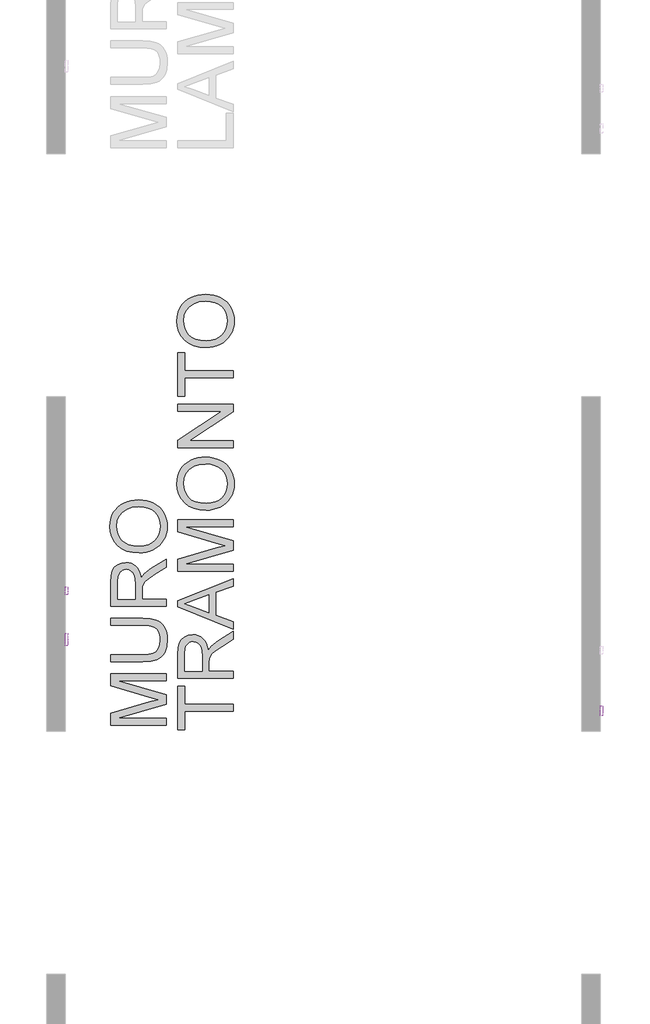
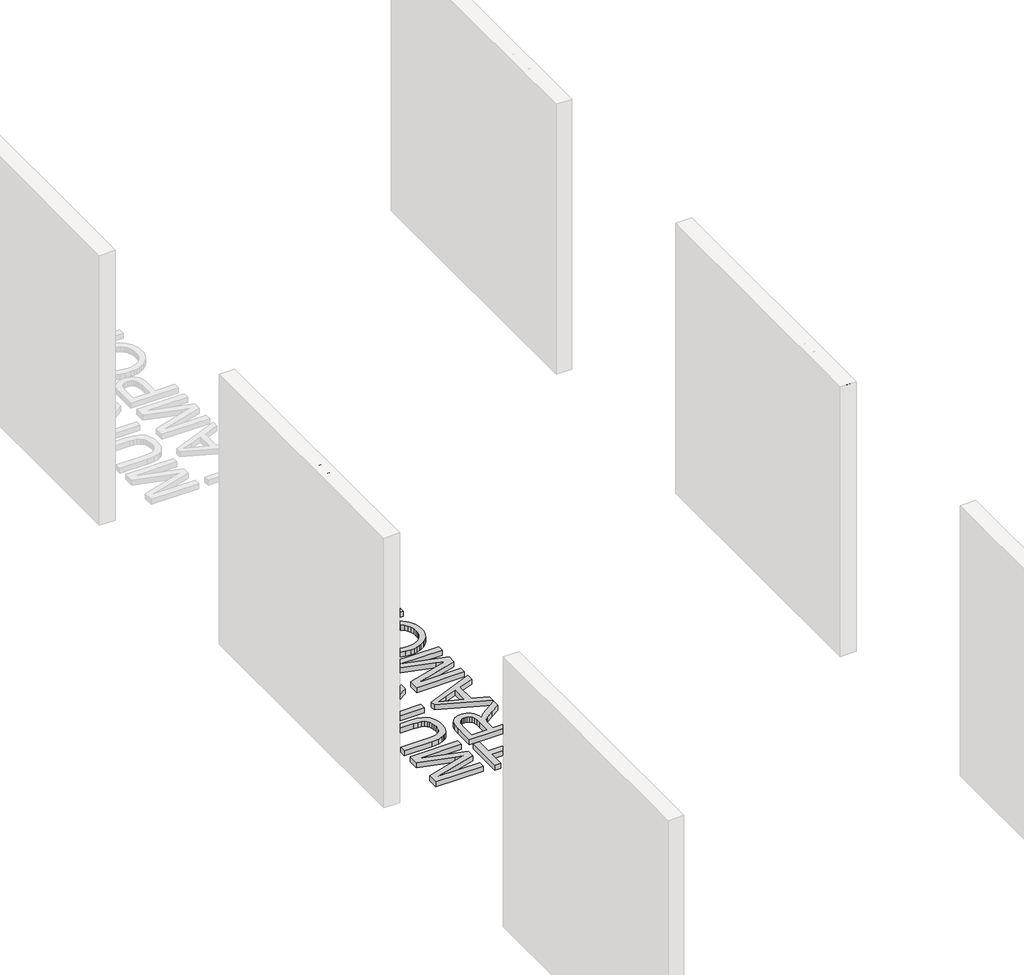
# One storey, part 5 of 11: 4 proxies.
"""IFC4 building model written with IfcOpenShell, lengths in millimetres."""

from ifc_helpers import new_model, si_unit, frame, origin, origin_with_axes, place, context, project, spatial, polyline, outline, extrude, element, save

model = new_model("IFC4")

# Units and contexts
model_context = context("Model", 3, world=origin())
ifc_project = project(units=[si_unit("LENGTHUNIT", "METRE", prefix="MILLI")], contexts=[model_context])

# Site, building, storey
site = spatial("IfcSite", under=ifc_project)
building = spatial("IfcBuilding", under=site)
storey = spatial("IfcBuildingStorey", under=building, Name="PORTOBELLO - SHOWROOM", Elevation=0.0)

# Proxies
placement = place(None, origin())
element("IfcBuildingElementProxy", 1, Name="10mm Arial", ObjectType="10mm Arial", at=placement, inside=storey, context=model_context, shape_type="SweptSolid", body=[
    extrude(outline(polyline([(-4684.2586502, 2568.7450757), (-4684.2586502, 2669.2013858), (-4662.6517143, 2669.2013858), (-4642.0993735, 2598.3963645), (-4637.9545697, 2583.6075083), (-4633.4664094, 2599.6226378), (-4613.2574251, 2669.2013858), (-4591.6504893, 2669.2013858), (-4591.6504893, 2568.7450757), (-4604.207528, 2568.7450757), (-4604.207528, 2656.6443471), (-4629.4442329, 2568.7450757), (-4646.4649065, 2568.7450757), (-4671.7016114, 2656.6443471), (-4671.7016114, 2568.7450757), (-4684.2586502, 2568.7450757)])), frame((-30379.0012486, 0.0, 0.0), z_axis=(1.0, 0.0, 0.0), x_axis=(0.0, 1.0, 0.0)), (0.0, 0.0, 1.0), 20.0),
    extrude(outline(polyline([(-4524.1564059, 2568.7450757), (-4524.1564059, 2581.4247418), (-4533.9911179, 2570.7377698), (-4546.8179368, 2567.1754458), (-4558.6269488, 2569.6770434), (-4566.7694037, 2575.9555628), (-4570.5095373, 2585.2016636), (-4571.2453013, 2596.8757856), (-4571.2453013, 2642.5176784), (-4558.6882625, 2642.5176784), (-4558.6882625, 2602.786423), (-4557.927973, 2589.9841295), (-4552.9615661, 2582.4670741), (-4543.6051007, 2579.7324846), (-4533.1204638, 2582.5283878), (-4526.1920196, 2590.1435451), (-4524.1564059, 2604.1353236), (-4524.1564059, 2642.5176784), (-4511.5993671, 2642.5176784), (-4511.5993671, 2568.7450757), (-4524.1564059, 2568.7450757)])), frame((-30379.0012486, 0.0, 0.0), z_axis=(1.0, 0.0, 0.0), x_axis=(0.0, 1.0, 0.0)), (0.0, 0.0, 1.0), 20.0),
    extrude(outline(polyline([(-4494.3334388, 2568.7450757), (-4494.3334388, 2642.5176784), (-4483.3460299, 2642.5176784), (-4483.3460299, 2631.6038459), (-4475.5469316, 2641.6592871), (-4467.6987824, 2644.0873083), (-4455.0926927, 2640.2122846), (-4459.2865474, 2628.9550956), (-4468.1157153, 2631.5302695), (-4475.2158378, 2629.0531974), (-4479.7407863, 2622.1860668), (-4481.7764, 2607.519838), (-4481.7764, 2568.7450757), (-4494.3334388, 2568.7450757)])), frame((-30379.0012486, 0.0, 0.0), z_axis=(1.0, 0.0, 0.0), x_axis=(0.0, 1.0, 0.0)), (0.0, 0.0, 1.0), 20.0),
    extrude(outline(polyline([(-4450.3838031, 2605.6313771), (-4447.6676077, 2623.4184715), (-4439.5190215, 2635.920328), (-4429.4513176, 2642.0455632), (-4417.3970509, 2644.0873083), (-4404.2054157, 2641.6010391), (-4393.6686622, 2634.1422317), (-4386.7616777, 2622.2994971), (-4384.4593496, 2606.6614466), (-4388.530577, 2584.3187468), (-4400.38864, 2571.6758689), (-4417.3970509, 2567.1754458), (-4430.7481016, 2569.6525179), (-4441.2725924, 2577.0837342), (-4448.1060004, 2589.1747891), (-4450.3838031, 2605.6313771)]), holes=[polyline([(-4437.8267643, 2605.6559025), (-4436.3736305, 2594.2914146), (-4432.0142288, 2586.194945), (-4425.4536666, 2581.3480997), (-4417.3970509, 2579.7324846), (-4409.3772234, 2581.3572967), (-4402.8289239, 2586.2317332), (-4398.4695222, 2594.4355017), (-4397.0163883, 2606.04831), (-4398.4787193, 2617.0817042), (-4402.8657121, 2625.0678091), (-4409.4232086, 2629.9146544), (-4417.3970509, 2631.5302695), (-4425.4536666, 2629.9207858), (-4432.0142288, 2625.0923346), (-4436.3736305, 2617.0142591), (-4437.8267643, 2605.6559025)])]), frame((-30379.0012486, 0.0, 0.0), z_axis=(1.0, 0.0, 0.0), x_axis=(0.0, 1.0, 0.0)), (0.0, 0.0, 1.0), 20.0),
    extrude(outline(polyline([(-4304.4082274, 2568.7450757), (-4304.4082274, 2656.6443471), (-4337.3704542, 2656.6443471), (-4337.3704542, 2669.2013858), (-4258.8889619, 2669.2013858), (-4258.8889619, 2656.6443471), (-4291.8511887, 2656.6443471), (-4291.8511887, 2568.7450757), (-4304.4082274, 2568.7450757)])), frame((-30379.0012486, 0.0, 0.0), z_axis=(1.0, 0.0, 0.0), x_axis=(0.0, 1.0, 0.0)), (0.0, 0.0, 1.0), 20.0),
    extrude(outline(polyline([(-4246.3319231, 2568.7450757), (-4246.3319231, 2642.5176784), (-4235.3445142, 2642.5176784), (-4235.3445142, 2631.6038459), (-4227.5454159, 2641.6592871), (-4219.6972667, 2644.0873083), (-4207.091177, 2640.2122846), (-4211.2850317, 2628.9550956), (-4220.1141996, 2631.5302695), (-4227.2143221, 2629.0531974), (-4231.7392706, 2622.1860668), (-4233.7748844, 2607.519838), (-4233.7748844, 2568.7450757), (-4246.3319231, 2568.7450757)])), frame((-30379.0012486, 0.0, 0.0), z_axis=(1.0, 0.0, 0.0), x_axis=(0.0, 1.0, 0.0)), (0.0, 0.0, 1.0), 20.0),
    extrude(outline(polyline([(-4152.1541324, 2578.1628548), (-4164.3310264, 2569.6525179), (-4177.7832447, 2567.1754458), (-4188.2770786, 2568.6653679), (-4196.0179289, 2573.1351342), (-4200.7911978, 2579.922557), (-4202.3822874, 2588.3654488), (-4199.9787917, 2598.2982626), (-4193.6634841, 2605.5087497), (-4184.8711045, 2609.6290281), (-4174.0063229, 2611.517489), (-4152.2277088, 2615.8339711), (-4152.1541324, 2618.6298742), (-4155.6122231, 2627.9005005), (-4169.4936371, 2631.5302695), (-4182.1978286, 2629.1145111), (-4188.2556188, 2620.5428606), (-4200.8126576, 2622.1124904), (-4195.3802668, 2634.3752236), (-4184.4419088, 2641.5611853), (-4167.8749563, 2644.0873083), (-4152.6569044, 2641.8554908), (-4144.0607285, 2636.2514218), (-4140.2102302, 2627.7288222), (-4139.5970936, 2616.7414133), (-4139.5970936, 2601.1186913), (-4138.9594315, 2579.3032889), (-4136.4578339, 2568.7450757), (-4149.0148727, 2568.7450757), (-4152.1541324, 2578.1628548)]), holes=[polyline([(-4152.1541324, 2603.2769323), (-4172.4121676, 2599.4264341), (-4183.2156355, 2597.3908204), (-4188.108466, 2594.0798824), (-4189.8252487, 2589.2483655), (-4186.085115, 2582.4548114), (-4175.1099689, 2579.7324846), (-4162.4057773, 2582.7368542), (-4154.2142715, 2590.008655), (-4152.2277088, 2599.7207397), (-4152.1541324, 2603.2769323)])]), frame((-30379.0012486, 0.0, 0.0), z_axis=(1.0, 0.0, 0.0), x_axis=(0.0, 1.0, 0.0)), (0.0, 0.0, 1.0), 20.0),
    extrude(outline(polyline([(-4122.3311653, 2568.7450757), (-4122.3311653, 2642.5176784), (-4109.7741265, 2642.5176784), (-4109.7741265, 2630.3775726), (-4101.1411624, 2640.3226492), (-4088.8539037, 2644.0873083), (-4076.2723395, 2640.2490728), (-4069.356158, 2629.4946558), (-4059.5582342, 2640.4391452), (-4047.1851364, 2644.0873083), (-4037.7458975, 2642.5697951), (-4030.7653367, 2638.0172554), (-4026.4519203, 2630.3070619), (-4025.0141148, 2619.3165873), (-4025.0141148, 2568.7450757), (-4037.5711536, 2568.7450757), (-4037.5711536, 2613.9209847), (-4038.7361132, 2624.4056215), (-4042.9544935, 2629.5682322), (-4050.1281924, 2631.5302695), (-4062.4767647, 2626.5025489), (-4066.1647817, 2619.9603808), (-4067.3941207, 2610.3893175), (-4067.3941207, 2568.7450757), (-4079.9511594, 2568.7450757), (-4079.9511594, 2615.3189363), (-4082.8574272, 2627.4835676), (-4092.3855709, 2631.5302695), (-4101.6807226, 2628.8324682), (-4107.8611401, 2620.9352681), (-4109.7741265, 2605.9502081), (-4109.7741265, 2568.7450757), (-4122.3311653, 2568.7450757)])), frame((-30379.0012486, 0.0, 0.0), z_axis=(1.0, 0.0, 0.0), x_axis=(0.0, 1.0, 0.0)), (0.0, 0.0, 1.0), 20.0),
    extrude(outline(polyline([(-4009.3178164, 2605.6313771), (-4006.601621, 2623.4184715), (-3998.4530348, 2635.920328), (-3988.3853308, 2642.0455632), (-3976.3310641, 2644.0873083), (-3963.1394289, 2641.6010391), (-3952.6026754, 2634.1422317), (-3945.695691, 2622.2994971), (-3943.3933628, 2606.6614466), (-3947.4645902, 2584.3187468), (-3959.3226532, 2571.6758689), (-3976.3310641, 2567.1754458), (-3989.6821149, 2569.6525179), (-4000.2066056, 2577.0837342), (-4007.0400137, 2589.1747891), (-4009.3178164, 2605.6313771)]), holes=[polyline([(-3996.7607776, 2605.6559025), (-3995.3076437, 2594.2914146), (-3990.9482421, 2586.194945), (-3984.3876798, 2581.3480997), (-3976.3310641, 2579.7324846), (-3968.3112366, 2581.3572967), (-3961.7629371, 2586.2317332), (-3957.4035355, 2594.4355017), (-3955.9504016, 2606.04831), (-3957.4127325, 2617.0817042), (-3961.7997253, 2625.0678091), (-3968.3572219, 2629.9146544), (-3976.3310641, 2631.5302695), (-3984.3876798, 2629.9207858), (-3990.9482421, 2625.0923346), (-3995.3076437, 2617.0142591), (-3996.7607776, 2605.6559025)])]), frame((-30379.0012486, 0.0, 0.0), z_axis=(1.0, 0.0, 0.0), x_axis=(0.0, 1.0, 0.0)), (0.0, 0.0, 1.0), 20.0),
    extrude(outline(polyline([(-3929.2666942, 2568.7450757), (-3929.2666942, 2642.5176784), (-3916.7096554, 2642.5176784), (-3916.7096554, 2632.2169826), (-3907.1079354, 2641.1197269), (-3893.9990736, 2644.0873083), (-3882.1410106, 2641.6960753), (-3874.0476067, 2635.4175559), (-3870.2829477, 2626.1837179), (-3869.6207601, 2614.043612), (-3869.6207601, 2568.7450757), (-3882.1777988, 2568.7450757), (-3882.1777988, 2612.3513548), (-3883.6248013, 2623.4613911), (-3888.7383611, 2629.3352403), (-3897.3590625, 2631.5302695), (-3910.9829591, 2626.6006508), (-3915.2779813, 2619.4576087), (-3916.7096554, 2607.88772), (-3916.7096554, 2568.7450757), (-3929.2666942, 2568.7450757)])), frame((-30379.0012486, 0.0, 0.0), z_axis=(1.0, 0.0, 0.0), x_axis=(0.0, 1.0, 0.0)), (0.0, 0.0, 1.0), 20.0),
    extrude(outline(polyline([(-3825.6711244, 2579.2174498), (-3824.1014945, 2568.3771937), (-3833.4947481, 2567.1754458), (-3844.0161732, 2569.2601105), (-3849.264623, 2574.7292895), (-3850.7852019, 2588.9785854), (-3850.7852019, 2629.9606397), (-3860.202981, 2629.9606397), (-3860.202981, 2642.5176784), (-3850.7852019, 2642.5176784), (-3850.7852019, 2660.4457943), (-3838.2281631, 2667.8279597), (-3838.2281631, 2642.5176784), (-3825.6711244, 2642.5176784), (-3825.6711244, 2629.9606397), (-3838.2281631, 2629.9606397), (-3838.2281631, 2589.3464674), (-3837.5659755, 2582.8717443), (-3835.4199972, 2580.5786132), (-3831.1403034, 2579.7324846), (-3825.6711244, 2579.2174498)])), frame((-30379.0012486, 0.0, 0.0), z_axis=(1.0, 0.0, 0.0), x_axis=(0.0, 1.0, 0.0)), (0.0, 0.0, 1.0), 20.0),
    extrude(outline(polyline([(-3816.2533453, 2605.6313771), (-3813.5371499, 2623.4184715), (-3805.3885637, 2635.920328), (-3795.3208598, 2642.0455632), (-3783.2665931, 2644.0873083), (-3770.0749578, 2641.6010391), (-3759.5382044, 2634.1422317), (-3752.6312199, 2622.2994971), (-3750.3288918, 2606.6614466), (-3754.4001192, 2584.3187468), (-3766.2581821, 2571.6758689), (-3783.2665931, 2567.1754458), (-3796.6176438, 2569.6525179), (-3807.1421345, 2577.0837342), (-3813.9755426, 2589.1747891), (-3816.2533453, 2605.6313771)]), holes=[polyline([(-3803.6963065, 2605.6559025), (-3802.2431726, 2594.2914146), (-3797.883771, 2586.194945), (-3791.3232088, 2581.3480997), (-3783.2665931, 2579.7324846), (-3775.2467656, 2581.3572967), (-3768.698466, 2586.2317332), (-3764.3390644, 2594.4355017), (-3762.8859305, 2606.04831), (-3764.3482615, 2617.0817042), (-3768.7352542, 2625.0678091), (-3775.2927508, 2629.9146544), (-3783.2665931, 2631.5302695), (-3791.3232088, 2629.9207858), (-3797.883771, 2625.0923346), (-3802.2431726, 2617.0142591), (-3803.6963065, 2605.6559025)])]), frame((-30379.0012486, 0.0, 0.0), z_axis=(1.0, 0.0, 0.0), x_axis=(0.0, 1.0, 0.0)), (0.0, 0.0, 1.0), 20.0),
])
element("IfcBuildingElementProxy", 2, Name="10mm Arial", ObjectType="10mm Arial", at=placement, inside=storey, context=model_context, shape_type="SweptSolid", body=[
    extrude(outline(polyline([(-4687.9657421, 2597.5273179), (-4675.4087034, 2597.5273179), (-4671.3620014, 2584.9580164), (-4661.4782385, 2577.0117653), (-4646.4196022, 2573.9828702), (-4633.2984777, 2576.2760013), (-4624.824929, 2582.5790461), (-4622.0412886, 2591.0035438), (-4624.1259533, 2598.8394303), (-4632.6608155, 2604.5416012), (-4650.9445507, 2609.3363299), (-4670.6262374, 2615.5290102), (-4681.307078, 2624.8732128), (-4684.8264825, 2637.3566752), (-4680.4732122, 2651.5691829), (-4667.7567579, 2661.6000987), (-4649.1419289, 2665.0214012), (-4629.2763012, 2661.4406831), (-4616.0325494, 2650.9192581), (-4611.0538797, 2635.1984342), (-4623.6109185, 2635.1984342), (-4625.9163123, 2642.6909641), (-4630.7233037, 2648.0988295), (-4648.6514196, 2652.4643625), (-4666.6285864, 2648.1478804), (-4672.2694437, 2637.7245572), (-4668.2717927, 2629.0180166), (-4647.7685028, 2622.0037333), (-4625.5484303, 2615.7006884), (-4613.3960617, 2605.5226199), (-4609.4842498, 2591.3223749), (-4613.9846729, 2576.3005267), (-4626.9341191, 2565.3376433), (-4645.9290928, 2561.4258314), (-4668.3576318, 2565.6442116), (-4682.5456141, 2578.3484032), (-4687.9657421, 2597.5273179)])), frame((-26058.2301018, 0.0, 0.0), z_axis=(1.0, 0.0, 0.0), x_axis=(0.0, 1.0, 0.0)), (0.0, 0.0, 1.0), 20.0),
    extrude(outline(polyline([(-26038.2301018, -4579.6612828), (-26038.2301018, -4592.2183215), (-26058.2301018, -4592.2183215), (-26058.2301018, -4579.6612828), (-26038.2301018, -4579.6612828)])), frame((0.0, 0.0, 2562.9954612), z_axis=(0.0, 0.0, 1.0), x_axis=(1.0, 0.0, 0.0)), (0.0, 0.0, 1.0), 100.4563101),
    extrude(outline(polyline([(-4513.7368292, 2572.4132403), (-4525.9137233, 2563.9029035), (-4539.3659416, 2561.4258314), (-4549.8597755, 2562.9157535), (-4557.6006258, 2567.3855197), (-4562.3738947, 2574.1729425), (-4563.9649843, 2582.6158343), (-4561.5614886, 2592.5486482), (-4555.246181, 2599.7591353), (-4546.4538013, 2603.8794136), (-4535.5890197, 2605.7678745), (-4513.8104056, 2610.0843566), (-4513.7368292, 2612.8802598), (-4517.19492, 2622.1508861), (-4531.0763339, 2625.7806551), (-4543.7805255, 2623.3648966), (-4549.8383157, 2614.7932462), (-4562.3953545, 2616.362876), (-4556.9629637, 2628.6256092), (-4546.0246057, 2635.8115708), (-4529.4576532, 2638.3376939), (-4514.2396013, 2636.1058764), (-4505.6434253, 2630.5018074), (-4501.7929271, 2621.9792078), (-4501.1797905, 2610.9917989), (-4501.1797905, 2595.3690768), (-4500.5421283, 2573.5536745), (-4498.0405308, 2562.9954612), (-4510.5975695, 2562.9954612), (-4513.7368292, 2572.4132403)]), holes=[polyline([(-4513.7368292, 2597.5273179), (-4533.9948644, 2593.6768196), (-4544.7983324, 2591.6412059), (-4549.6911629, 2588.330268), (-4551.4079455, 2583.4987511), (-4547.6678119, 2576.7051969), (-4536.6926657, 2573.9828702), (-4523.9884742, 2576.9872398), (-4515.7969684, 2584.2590406), (-4513.8104056, 2593.9711252), (-4513.7368292, 2597.5273179)])]), frame((-26058.2301018, 0.0, 0.0), z_axis=(1.0, 0.0, 0.0), x_axis=(0.0, 1.0, 0.0)), (0.0, 0.0, 1.0), 20.0),
    extrude(outline(polyline([(-4465.814068, 2562.9954612), (-4491.7620114, 2636.768064), (-4478.4692086, 2636.768064), (-4462.7483847, 2592.5731737), (-4458.0149697, 2577.710741), (-4453.3796566, 2591.7393078), (-4437.5607308, 2636.768064), (-4424.267928, 2636.768064), (-4449.8970403, 2562.9954612), (-4465.814068, 2562.9954612)])), frame((-26058.2301018, 0.0, 0.0), z_axis=(1.0, 0.0, 0.0), x_axis=(0.0, 1.0, 0.0)), (0.0, 0.0, 1.0), 20.0),
    extrude(outline(polyline([(-4366.1916237, 2572.4132403), (-4378.3685177, 2563.9029035), (-4391.820736, 2561.4258314), (-4402.3145699, 2562.9157535), (-4410.0554203, 2567.3855197), (-4414.8286891, 2574.1729425), (-4416.4197788, 2582.6158343), (-4414.0162831, 2592.5486482), (-4407.7009755, 2599.7591353), (-4398.9085958, 2603.8794136), (-4388.0438142, 2605.7678745), (-4366.2652001, 2610.0843566), (-4366.1916237, 2612.8802598), (-4369.6497145, 2622.1508861), (-4383.5311284, 2625.7806551), (-4396.23532, 2623.3648966), (-4402.2931102, 2614.7932462), (-4414.8501489, 2616.362876), (-4409.4177581, 2628.6256092), (-4398.4794001, 2635.8115708), (-4381.9124476, 2638.3376939), (-4366.6943958, 2636.1058764), (-4358.0982198, 2630.5018074), (-4354.2477216, 2621.9792078), (-4353.6345849, 2610.9917989), (-4353.6345849, 2595.3690768), (-4352.9969228, 2573.5536745), (-4350.4953252, 2562.9954612), (-4363.052364, 2562.9954612), (-4366.1916237, 2572.4132403)]), holes=[polyline([(-4366.1916237, 2597.5273179), (-4386.4496589, 2593.6768196), (-4397.2531268, 2591.6412059), (-4402.1459574, 2588.330268), (-4403.86274, 2583.4987511), (-4400.1226064, 2576.7051969), (-4389.1474602, 2573.9828702), (-4376.4432686, 2576.9872398), (-4368.2517629, 2584.2590406), (-4366.2652001, 2593.9711252), (-4366.1916237, 2597.5273179)])]), frame((-26058.2301018, 0.0, 0.0), z_axis=(1.0, 0.0, 0.0), x_axis=(0.0, 1.0, 0.0)), (0.0, 0.0, 1.0), 20.0),
    extrude(outline(polyline([(-4309.6849492, 2573.4678354), (-4308.1153194, 2562.6275792), (-4317.508573, 2561.4258314), (-4328.0299981, 2563.510496), (-4333.2784479, 2568.979675), (-4334.7990268, 2583.228971), (-4334.7990268, 2624.2110252), (-4344.2168059, 2624.2110252), (-4344.2168059, 2636.768064), (-4334.7990268, 2636.768064), (-4334.7990268, 2654.6961799), (-4322.241988, 2662.0783453), (-4322.241988, 2636.768064), (-4309.6849492, 2636.768064), (-4309.6849492, 2624.2110252), (-4322.241988, 2624.2110252), (-4322.241988, 2583.596853), (-4321.5798004, 2577.1221299), (-4319.4338221, 2574.8289988), (-4315.1541282, 2573.9828702), (-4309.6849492, 2573.4678354)])), frame((-26058.2301018, 0.0, 0.0), z_axis=(1.0, 0.0, 0.0), x_axis=(0.0, 1.0, 0.0)), (0.0, 0.0, 1.0), 20.0),
    extrude(outline(polyline([(-4300.2671702, 2599.8817626), (-4297.5509748, 2617.6688571), (-4289.4023886, 2630.1707136), (-4279.3346846, 2636.2959488), (-4267.2804179, 2638.3376939), (-4254.0887827, 2635.8514247), (-4243.5520292, 2628.3926172), (-4236.6450448, 2616.5498827), (-4234.3427166, 2600.9118322), (-4238.413944, 2578.5691324), (-4250.272007, 2565.9262545), (-4267.2804179, 2561.4258314), (-4280.6314687, 2563.9029035), (-4291.1559594, 2571.3341198), (-4297.9893675, 2583.4251747), (-4300.2671702, 2599.8817626)]), holes=[polyline([(-4287.7101314, 2599.9062881), (-4286.2569975, 2588.5418001), (-4281.8975959, 2580.4453305), (-4275.3370336, 2575.5984853), (-4267.2804179, 2573.9828702), (-4259.2605904, 2575.6076823), (-4252.7122909, 2580.4821187), (-4248.3528893, 2588.6858872), (-4246.8997554, 2600.2986955), (-4248.3620863, 2611.3320897), (-4252.7490791, 2619.3181947), (-4259.3065757, 2624.16504), (-4267.2804179, 2625.7806551), (-4275.3370336, 2624.1711714), (-4281.8975959, 2619.3427202), (-4286.2569975, 2611.2646447), (-4287.7101314, 2599.9062881)])]), frame((-26058.2301018, 0.0, 0.0), z_axis=(1.0, 0.0, 0.0), x_axis=(0.0, 1.0, 0.0)), (0.0, 0.0, 1.0), 20.0),
])
element("IfcBuildingElementProxy", 3, Name="10mm Arial Narrow", ObjectType="10mm Arial Narrow", at=placement, inside=storey, context=model_context, shape_type="SweptSolid", body=[
    extrude(outline(polyline([(-3712.1235911, 2568.7450757), (-3712.1235911, 2669.4636794), (-3680.8267064, 2669.4636794), (-3664.5310049, 2667.5853587), (-3653.0580187, 2658.1049155), (-3648.7683403, 2641.0858067), (-3650.5546487, 2629.0099812), (-3655.9135739, 2619.3835874), (-3665.6573627, 2613.082329), (-3680.598262, 2610.9819095), (-3702.3766294, 2610.9819095), (-3702.3766294, 2568.7450757), (-3712.1235911, 2568.7450757)]), holes=[polyline([(-3702.3766294, 2622.3533648), (-3679.4052745, 2622.3533648), (-3663.5410791, 2626.884179), (-3658.515302, 2640.5527697), (-3660.9901164, 2650.7185461), (-3666.9677453, 2656.518496), (-3679.6337189, 2658.0922242), (-3702.3766294, 2658.0922242), (-3702.3766294, 2622.3533648)])]), frame((-30379.0012486, 0.0, 0.0), z_axis=(1.0, 0.0, 0.0), x_axis=(0.0, 1.0, 0.0)), (0.0, 0.0, 1.0), 20.0),
    extrude(outline(polyline([(-3640.6458723, 2605.2961819), (-3638.6914034, 2621.8869574), (-3632.8279968, 2633.8390422), (-3623.9694301, 2641.0635968), (-3613.0294809, 2643.4717817), (-3602.2164453, 2641.0635968), (-3593.3324959, 2633.8390422), (-3587.3929411, 2622.0773278), (-3585.4130896, 2606.0576633), (-3587.3580399, 2588.8957767), (-3593.192891, 2576.7533215), (-3602.0419392, 2569.5287669), (-3613.0294809, 2567.1205821), (-3623.8901091, 2569.5351126), (-3632.76454, 2576.7787042), (-3638.6755392, 2588.7371347), (-3640.6458723, 2605.2961819)]), holes=[polyline([(-3630.8989106, 2605.3215646), (-3629.5948737, 2592.7698132), (-3625.6827632, 2583.8985551), (-3619.8415664, 2578.6252966), (-3612.7502711, 2576.8675437), (-3606.0301979, 2578.6411608), (-3600.3381246, 2583.9620119), (-3596.4545696, 2592.8491342), (-3595.1600512, 2605.3215646), (-3596.4640881, 2617.8352419), (-3600.3761987, 2626.6938086), (-3606.2173954, 2631.9670672), (-3613.3086908, 2633.72482), (-3620.0763565, 2631.9575487), (-3625.7589113, 2626.6557346), (-3629.6139108, 2617.7876493), (-3630.8989106, 2605.3215646)])]), frame((-30379.0012486, 0.0, 0.0), z_axis=(1.0, 0.0, 0.0), x_axis=(0.0, 1.0, 0.0)), (0.0, 0.0, 1.0), 20.0),
    extrude(outline(polyline([(-3513.9353708, 2576.8675437), (-3512.3108772, 2567.1205821), (-3519.6718638, 2567.1205821), (-3527.9466281, 2569.2400386), (-3532.2616893, 2575.0399884), (-3533.4292941, 2589.6858136), (-3533.4292941, 2632.1003264), (-3541.5517621, 2632.1003264), (-3541.5517621, 2635.3493136), (-3543.1762557, 2630.4758328), (-3550.7403041, 2632.1003264), (-3556.8194638, 2629.7778082), (-3560.6903275, 2623.2925251), (-3562.670179, 2607.8852186), (-3562.670179, 2568.7450757), (-3572.4171407, 2568.7450757), (-3572.4171407, 2641.8472881), (-3562.670179, 2641.8472881), (-3562.670179, 2632.1510918), (-3556.4260317, 2641.238103), (-3550.0295881, 2643.4717817), (-3541.5517621, 2641.8472881), (-3533.4292941, 2641.8472881), (-3533.4292941, 2658.0922242), (-3523.6823324, 2666.2146922), (-3523.6823324, 2641.8472881), (-3513.9353708, 2641.8472881), (-3513.9353708, 2632.1003264), (-3523.6823324, 2632.1003264), (-3523.6823324, 2587.4521349), (-3522.8193202, 2579.4565804), (-3518.1996665, 2576.8675437), (-3513.9353708, 2576.8675437)])), frame((-30379.0012486, 0.0, 0.0), z_axis=(1.0, 0.0, 0.0), x_axis=(0.0, 1.0, 0.0)), (0.0, 0.0, 1.0), 20.0),
    extrude(outline(polyline([(-3507.4373963, 2605.2961819), (-3505.4829275, 2621.8869574), (-3499.6195208, 2633.8390422), (-3490.7609541, 2641.0635968), (-3479.821005, 2643.4717817), (-3469.0079694, 2641.0635968), (-3460.12402, 2633.8390422), (-3454.1844652, 2622.0773278), (-3452.2046136, 2606.0576633), (-3454.149564, 2588.8957767), (-3459.9844151, 2576.7533215), (-3468.8334632, 2569.5287669), (-3479.821005, 2567.1205821), (-3490.6816332, 2569.5351126), (-3499.5560641, 2576.7787042), (-3505.4670633, 2588.7371347), (-3507.4373963, 2605.2961819)]), holes=[polyline([(-3497.6904347, 2605.3215646), (-3496.3863978, 2592.7698132), (-3492.4742872, 2583.8985551), (-3486.6330905, 2578.6252966), (-3479.5417951, 2576.8675437), (-3472.821722, 2578.6411608), (-3467.1296487, 2583.9620119), (-3463.2460936, 2592.8491342), (-3461.9515753, 2605.3215646), (-3463.2556121, 2617.8352419), (-3467.1677227, 2626.6938086), (-3473.0089195, 2631.9670672), (-3480.1002148, 2633.72482), (-3486.8678806, 2631.9575487), (-3492.5504354, 2626.6557346), (-3496.4054349, 2617.7876493), (-3497.6904347, 2605.3215646)])]), frame((-30379.0012486, 0.0, 0.0), z_axis=(1.0, 0.0, 0.0), x_axis=(0.0, 1.0, 0.0)), (0.0, 0.0, 1.0), 20.0),
    extrude(outline(polyline([(-3429.4617031, 2568.7450757), (-3439.2086648, 2568.7450757), (-3439.2086648, 2669.4636794), (-3429.4617031, 2669.4636794), (-3429.4617031, 2634.0547953), (-3422.0626424, 2641.1365721), (-3412.861409, 2643.4717817), (-3399.9796824, 2639.2709427), (-3390.7023009, 2626.5415124), (-3387.2248693, 2605.8546016), (-3389.1571283, 2589.4002581), (-3394.9539053, 2577.197519), (-3403.3270276, 2569.6398163), (-3412.9883226, 2567.1205821), (-3422.3291609, 2569.7350015), (-3429.4617031, 2577.5021115), (-3429.4617031, 2568.7450757)]), holes=[polyline([(-3429.4617031, 2605.8546016), (-3427.3803207, 2588.6070483), (-3421.4915313, 2579.8753952), (-3413.039088, 2576.8675437), (-3407.0963604, 2578.657025), (-3401.8580031, 2584.0254687), (-3396.9718309, 2605.4484782), (-3401.6803241, 2626.884179), (-3406.9250271, 2632.0146598), (-3413.2421497, 2633.72482), (-3419.2197786, 2631.9353388), (-3424.5120741, 2626.5668951), (-3429.4617031, 2605.8546016)])]), frame((-30379.0012486, 0.0, 0.0), z_axis=(1.0, 0.0, 0.0), x_axis=(0.0, 1.0, 0.0)), (0.0, 0.0, 1.0), 20.0),
    extrude(outline(polyline([(-3335.2410738, 2591.4879862), (-3325.4941121, 2589.8634926), (-3329.1936425, 2579.976926), (-3335.0126294, 2572.8570751), (-3342.7162827, 2568.5547053), (-3352.0698123, 2567.1205821), (-3363.6633663, 2569.5351126), (-3372.8074885, 2576.7787042), (-3378.7470433, 2588.5848384), (-3380.7268948, 2604.6869968), (-3378.7375247, 2621.3539205), (-3372.7694144, 2633.5344497), (-3363.7553786, 2640.9874487), (-3352.6282319, 2643.4717817), (-3341.9452828, 2641.0731153), (-3333.1977654, 2633.8771163), (-3327.3629144, 2622.1376117), (-3325.417964, 2606.1084287), (-3325.4941121, 2602.8594415), (-3370.9799332, 2602.8594415), (-3364.9769216, 2583.4162836), (-3359.0468854, 2578.5047287), (-3351.9428987, 2576.8675437), (-3341.7644309, 2580.5226543), (-3335.2410738, 2591.4879862)]), holes=[polyline([(-3370.3199827, 2612.6064031), (-3335.2410738, 2612.6064031), (-3339.5053695, 2626.8714876), (-3345.3307021, 2632.0114869), (-3352.5520838, 2633.72482), (-3364.7611686, 2628.0137097), (-3370.3199827, 2612.6064031)])]), frame((-30379.0012486, 0.0, 0.0), z_axis=(1.0, 0.0, 0.0), x_axis=(0.0, 1.0, 0.0)), (0.0, 0.0, 1.0), 20.0),
    extrude(outline(polyline([(-30359.0012486, -3302.7512016), (-30359.0012486, -3312.4981633), (-30379.0012486, -3312.4981633), (-30379.0012486, -3302.7512016), (-30359.0012486, -3302.7512016)])), frame((0.0, 0.0, 2568.7450757), z_axis=(0.0, 0.0, 1.0), x_axis=(1.0, 0.0, 0.0)), (0.0, 0.0, 1.0), 100.7186038),
    extrude(outline(polyline([(-30359.0012486, -3276.7593039), (-30359.0012486, -3286.5062655), (-30379.0012486, -3286.5062655), (-30379.0012486, -3276.7593039), (-30359.0012486, -3276.7593039)])), frame((0.0, 0.0, 2568.7450757), z_axis=(0.0, 0.0, 1.0), x_axis=(1.0, 0.0, 0.0)), (0.0, 0.0, 1.0), 100.7186038),
    extrude(outline(polyline([(-3265.3878486, 2605.2961819), (-3263.4333797, 2621.8869574), (-3257.5699731, 2633.8390422), (-3248.7114064, 2641.0635968), (-3237.7714573, 2643.4717817), (-3226.9584217, 2641.0635968), (-3218.0744722, 2633.8390422), (-3212.1349175, 2622.0773278), (-3210.1550659, 2606.0576633), (-3212.1000163, 2588.8957767), (-3217.9348673, 2576.7533215), (-3226.7839155, 2569.5287669), (-3237.7714573, 2567.1205821), (-3248.6320854, 2569.5351126), (-3257.5065163, 2576.7787042), (-3263.4175155, 2588.7371347), (-3265.3878486, 2605.2961819)]), holes=[polyline([(-3255.640887, 2605.3215646), (-3254.3368501, 2592.7698132), (-3250.4247395, 2583.8985551), (-3244.5835428, 2578.6252966), (-3237.4922474, 2576.8675437), (-3230.7721742, 2578.6411608), (-3225.0801009, 2583.9620119), (-3221.1965459, 2592.8491342), (-3219.9020276, 2605.3215646), (-3221.2060644, 2617.8352419), (-3225.118175, 2626.6938086), (-3230.9593717, 2631.9670672), (-3238.0506671, 2633.72482), (-3244.8183328, 2631.9575487), (-3250.5008876, 2626.6557346), (-3254.3558871, 2617.7876493), (-3255.640887, 2605.3215646)])]), frame((-30379.0012486, 0.0, 0.0), z_axis=(1.0, 0.0, 0.0), x_axis=(0.0, 1.0, 0.0)), (0.0, 0.0, 1.0), 20.0),
])
element("IfcBuildingElementProxy", 4, Name="450mm Arial", ObjectType="450mm Arial", at=placement, inside=storey, context=model_context, shape_type="SweptSolid", body=[
    extrude(outline(polyline([(-29561.5974385, -4765.8455518), (-30011.2535813, -4765.8455518), (-30011.2535813, -4669.1299605), (-29694.3206505, -4577.1348805), (-29628.1237135, -4558.5821735), (-29699.8096171, -4538.4925558), (-30011.2535813, -4448.0343864), (-30011.2535813, -4351.3187951), (-29561.5974385, -4351.3187951), (-29561.5974385, -4407.525813), (-29955.0465634, -4407.525813), (-29561.5974385, -4520.4887453), (-29561.5974385, -4596.6756016), (-29955.0465634, -4709.6385339), (-29561.5974385, -4709.6385339), (-29561.5974385, -4765.8455518)])), origin_with_axes(), (0.0, 0.0, 1.0), 50.0),
    extrude(outline(polyline([(-30011.2535813, -3957.8696702), (-30011.2535813, -3901.6626523), (-29751.8450204, -3901.6626523), (-29691.0958827, -3905.4774841), (-29644.3161649, -3916.9219794), (-29625.3449242, -3926.0816924), (-29608.2262096, -3938.3015043), (-29592.9600213, -3953.581415), (-29579.5463592, -3971.9214246), (-29568.6198851, -3993.3421167), (-29560.8152607, -4017.864075), (-29556.1324861, -4045.4872993), (-29554.5715612, -4076.2117898), (-29560.0056382, -4133.2833199), (-29566.7982343, -4157.5273992), (-29576.3078689, -4178.9103546), (-29588.3938872, -4197.4356169), (-29602.9156344, -4213.1066165), (-29619.8731106, -4225.9233535), (-29639.2663157, -4235.8858278), (-29688.0220614, -4248.6888424), (-29751.8450204, -4252.9565139), (-30011.2535813, -4252.9565139), (-30011.2535813, -4196.749496), (-29753.8210483, -4196.749496), (-29703.3088333, -4193.9775679), (-29668.1382799, -4185.6617835), (-29643.7809907, -4170.5945703), (-29625.7085682, -4147.5683554), (-29614.5110764, -4117.5437082), (-29610.7785791, -4081.4811977), (-29612.6242441, -4050.5028425), (-29618.1612391, -4024.3136107), (-29627.3895642, -4002.9135022), (-29640.3092193, -3986.3025171), (-29658.4776987, -3973.8631466), (-29683.4524967, -3964.9778819), (-29715.2336132, -3959.6467231), (-29753.8210483, -3957.8696702), (-30011.2535813, -3957.8696702)])), origin_with_axes(), (0.0, 0.0, 1.0), 50.0),
    extrude(outline(polyline([(-29561.5974385, -3803.3003711), (-30011.2535813, -3803.3003711), (-30011.2535813, -3609.5398505), (-30008.2209272, -3557.4632801), (-29999.1229651, -3519.5756882), (-29982.3267274, -3491.8838518), (-29956.1992464, -3470.3945476), (-29923.8006211, -3456.603519), (-29888.1909504, -3452.0065095), (-29865.0961235, -3453.9104948), (-29843.89499, -3459.6224506), (-29824.5875501, -3469.1423771), (-29807.1738036, -3482.4702741), (-29792.2095084, -3499.7776718), (-29780.2504225, -3521.2361006), (-29771.2965457, -3546.8455603), (-29765.3478782, -3576.606051), (-29741.3062045, -3544.6602655), (-29683.4524967, -3499.1018428), (-29561.5974385, -3424.1225592), (-29561.5974385, -3489.4412616), (-29654.8000911, -3547.9536454), (-29716.4960756, -3590.2186882), (-29734.4861635, -3605.930855), (-29745.6424881, -3619.9139974), (-29756.345973, -3646.6452647), (-29758.3220009, -3679.2497262), (-29758.3220009, -3747.0933532), (-29561.5974385, -3747.0933532), (-29561.5974385, -3803.3003711)]), holes=[polyline([(-29814.5290188, -3747.0933532), (-29814.5290188, -3621.286239), (-29816.5187692, -3585.1551165), (-29822.4880204, -3557.1202196), (-29832.8347224, -3536.0151431), (-29847.9568253, -3520.6734815), (-29866.2488065, -3511.3285159), (-29886.1051431, -3508.2135274), (-29900.4793743, -3509.6989789), (-29913.5225312, -3514.1553337), (-29935.6156217, -3531.9807527), (-29944.1166587, -3545.5899592), (-29950.188828, -3562.6503535), (-29955.0465634, -3607.1247053), (-29955.0465634, -3747.0933532), (-29814.5290188, -3747.0933532)])]), origin_with_axes(), (0.0, 0.0, 1.0), 50.0),
    extrude(outline(polyline([(-29780.497426, -3374.72186), (-29833.2395337, -3370.9756403), (-29879.9300557, -3359.7369812), (-29920.5689921, -3341.0058827), (-29955.1563428, -3314.7823448), (-29982.7727059, -3282.6375842), (-30002.4986796, -3246.1428176), (-30014.3342638, -3205.298045), (-30018.2794585, -3160.1032664), (-30016.4269323, -3129.8521993), (-30010.8693536, -3101.1243204), (-30001.6067225, -3073.9196298), (-29988.6390389, -3048.2381273), (-29972.3573918, -3024.80024), (-29953.15287, -3004.3263947), (-29931.0254734, -2986.8165912), (-29905.9752021, -2972.2708298), (-29878.5715365, -2960.8400569), (-29849.3839566, -2952.6752191), (-29818.4124627, -2947.7763164), (-29785.6570546, -2946.1433488), (-29752.4693903, -2947.8620815), (-29721.0793627, -2953.0182795), (-29691.4869715, -2961.6119428), (-29663.692217, -2973.6430714), (-29638.4292483, -2988.8269253), (-29616.4322147, -3006.8787641), (-29597.7011162, -3027.798588), (-29582.2359528, -3051.586397), (-29570.1327815, -3077.305636), (-29561.4876591, -3104.0197503), (-29556.3005857, -3131.7287397), (-29554.5715612, -3160.4326044), (-29556.4824077, -3191.2119845), (-29562.2149472, -3220.3172299), (-29571.7691797, -3247.7483404), (-29585.1451051, -3273.5053161), (-29601.8247023, -3296.9157586), (-29621.2899501, -3317.3072695), (-29643.5408484, -3334.6798487), (-29668.5773972, -3349.0334963), (-29695.3944296, -3360.2721554), (-29722.9867785, -3368.299769), (-29751.354444, -3373.1163372), (-29780.497426, -3374.72186)]), holes=[polyline([(-29779.9485293, -3318.5148421), (-29742.6853074, -3315.7051773), (-29709.6074225, -3307.276183), (-29680.7148746, -3293.2278592), (-29656.0076638, -3273.5602058), (-29636.2199392, -3249.6523257), (-29622.0858503, -3222.8833217), (-29613.6053969, -3193.253194), (-29610.7785791, -3160.7619424), (-29613.6328417, -3127.7149329), (-29622.1956296, -3097.7348835), (-29636.4669427, -3070.8217943), (-29656.4467811, -3046.975665), (-29681.6754438, -3027.452097), (-29711.6932298, -3013.5066913), (-29746.5001392, -3005.1394478), (-29786.0961719, -3002.3503667), (-29835.853654, -3007.1257676), (-29878.8597072, -3021.4519704), (-29914.0302606, -3044.9584698), (-29940.2812433, -3077.2747606), (-29956.6246413, -3116.2601458), (-29962.0724407, -3159.7739284), (-29959.4480285, -3191.1365112), (-29951.5747921, -3220.2348954), (-29938.4527313, -3247.0690808), (-29920.0818463, -3271.6390674), (-29895.5770411, -3292.1472189), (-29864.0532198, -3306.7958984), (-29825.5103826, -3315.5851062), (-29779.9485293, -3318.5148421)])]), origin_with_axes(), (0.0, 0.0, 1.0), 50.0),
    extrude(outline(polyline([(-29021.1653553, -4653.4315161), (-29414.6144803, -4653.4315161), (-29414.6144803, -4800.974938), (-29470.8214981, -4800.974938), (-29470.8214981, -4449.6810764), (-29414.6144803, -4449.6810764), (-29414.6144803, -4597.2244982), (-29021.1653553, -4597.2244982), (-29021.1653553, -4653.4315161)])), origin_with_axes(), (0.0, 0.0, 1.0), 50.0),
    extrude(outline(polyline([(-29021.1653553, -4386.4481813), (-29470.8214981, -4386.4481813), (-29470.8214981, -4192.6876608), (-29467.7888441, -4140.6110903), (-29458.6908819, -4102.7234984), (-29441.8946442, -4075.031662), (-29415.7671632, -4053.5423578), (-29383.368538, -4039.7513292), (-29347.7588672, -4035.1543197), (-29324.6640403, -4037.058305), (-29303.4629069, -4042.7702609), (-29284.1554669, -4052.2901873), (-29266.7417204, -4065.6180843), (-29251.7774252, -4082.925482), (-29239.8183393, -4104.3839108), (-29230.8644625, -4129.9933705), (-29224.915795, -4159.7538612), (-29200.8741213, -4127.8080757), (-29143.0204135, -4082.249653), (-29021.1653553, -4007.2703695), (-29021.1653553, -4072.5890718), (-29114.3680079, -4131.1014557), (-29176.0639924, -4173.3664984), (-29194.0540804, -4189.0786652), (-29205.210405, -4203.0618076), (-29215.9138898, -4229.7930749), (-29217.8899178, -4262.3975364), (-29217.8899178, -4330.2411634), (-29021.1653553, -4330.2411634), (-29021.1653553, -4386.4481813)]), holes=[polyline([(-29274.0969356, -4330.2411634), (-29274.0969356, -4204.4340493), (-29276.086686, -4168.3029267), (-29282.0559372, -4140.2680299), (-29292.4026392, -4119.1629533), (-29307.5247421, -4103.8212917), (-29325.8167233, -4094.4763261), (-29345.6730599, -4091.3613376), (-29360.0472912, -4092.8467892), (-29373.090448, -4097.3031439), (-29395.1835385, -4115.1285629), (-29403.6845755, -4128.7377694), (-29409.7567448, -4145.7981637), (-29414.6144803, -4190.2725155), (-29414.6144803, -4330.2411634), (-29274.0969356, -4330.2411634)])]), origin_with_axes(), (0.0, 0.0, 1.0), 50.0),
    extrude(outline(polyline([(-29021.1653553, -3989.1567797), (-29470.8214981, -3809.6675723), (-29470.8214981, -3761.8037837), (-29021.1653553, -3582.3145763), (-29021.1653553, -3641.7051948), (-29161.6828999, -3693.1917013), (-29161.6828999, -3878.389434), (-29021.1653553, -3929.7661612), (-29021.1653553, -3989.1567797)]), holes=[polyline([(-29217.8899178, -3857.7509196), (-29217.8899178, -3713.7204364), (-29328.4377048, -3754.2290098), (-29414.6144803, -3785.735678), (-29338.098286, -3813.7294076), (-29217.8899178, -3857.7509196)])]), origin_with_axes(), (0.0, 0.0, 1.0), 50.0),
    extrude(outline(polyline([(-29021.1653553, -3522.2652818), (-29470.8214981, -3522.2652818), (-29470.8214981, -3425.5496905), (-29153.8885674, -3333.5546105), (-29087.6916303, -3315.0019035), (-29159.377534, -3294.9122858), (-29470.8214981, -3204.4541164), (-29470.8214981, -3107.7385252), (-29021.1653553, -3107.7385252), (-29021.1653553, -3163.945543), (-29414.6144803, -3163.945543), (-29021.1653553, -3276.9084754), (-29021.1653553, -3353.0953316), (-29414.6144803, -3466.058264), (-29021.1653553, -3466.058264), (-29021.1653553, -3522.2652818)])), origin_with_axes(), (0.0, 0.0, 1.0), 50.0),
    extrude(outline(polyline([(-29240.0653428, -3030.4538756), (-29292.8074505, -3026.7076559), (-29339.4979725, -3015.4689968), (-29380.1369089, -2996.7378983), (-29414.7242596, -2970.5143605), (-29442.3406227, -2938.3695999), (-29462.0665964, -2901.8748333), (-29473.9021806, -2861.0300607), (-29477.8473753, -2815.8352821), (-29475.9948491, -2785.5842149), (-29470.4372704, -2756.8563361), (-29461.1746393, -2729.6516454), (-29448.2069558, -2703.970143), (-29431.9253086, -2680.5322557), (-29412.7207868, -2660.0584103), (-29390.5933902, -2642.5486069), (-29365.543119, -2628.0028454), (-29338.1394533, -2616.5720725), (-29308.9518734, -2608.4072347), (-29277.9803795, -2603.508332), (-29245.2249714, -2601.8753645), (-29212.0373071, -2603.5940971), (-29180.6472795, -2608.7502951), (-29151.0548884, -2617.3439584), (-29123.2601338, -2629.3750871), (-29097.9971651, -2644.5589409), (-29076.0001315, -2662.6107798), (-29057.269033, -2683.5306037), (-29041.8038697, -2707.3184126), (-29029.7006983, -2733.0376517), (-29021.055576, -2759.7517659), (-29015.8685025, -2787.4607554), (-29014.1394781, -2816.16462), (-29016.0503245, -2846.9440002), (-29021.782864, -2876.0492455), (-29031.3370965, -2903.480356), (-29044.7130219, -2929.2373317), (-29061.3926192, -2952.6477742), (-29080.8578669, -2973.0392851), (-29103.1087652, -2990.4118644), (-29128.1453141, -3004.765512), (-29154.9623465, -3016.0041711), (-29182.5546954, -3024.0317847), (-29210.9223608, -3028.8483529), (-29240.0653428, -3030.4538756)]), holes=[polyline([(-29239.5164461, -2974.2468578), (-29202.2532242, -2971.437193), (-29169.1753393, -2963.0081987), (-29140.2827914, -2948.9598748), (-29115.5755806, -2929.2922214), (-29095.787856, -2905.3843413), (-29081.6537671, -2878.6153374), (-29073.1733137, -2848.9852096), (-29070.3464959, -2816.493958), (-29073.2007585, -2783.4469486), (-29081.7635464, -2753.4668992), (-29096.0348595, -2726.5538099), (-29116.0146979, -2702.7076807), (-29141.2433606, -2683.1841127), (-29171.2611466, -2669.2387069), (-29206.068056, -2660.8714635), (-29245.6640887, -2658.0823823), (-29295.4215708, -2662.8577833), (-29338.427624, -2677.1839861), (-29373.5981774, -2700.6904855), (-29399.8491601, -2733.0067763), (-29416.1925581, -2771.9921614), (-29421.6403575, -2815.5059441), (-29419.0159453, -2846.8685269), (-29411.1427089, -2875.966911), (-29398.0206481, -2902.8010964), (-29379.6497631, -2927.3710831), (-29355.1449579, -2947.8792345), (-29323.6211367, -2962.5279141), (-29285.0782994, -2971.3171218), (-29239.5164461, -2974.2468578)])]), origin_with_axes(), (0.0, 0.0, 1.0), 50.0),
    extrude(outline(polyline([(-29021.1653553, -2524.5907149), (-29470.8214981, -2524.5907149), (-29470.8214981, -2464.4316411), (-29114.5875666, -2229.5038712), (-29470.8214981, -2229.5038712), (-29470.8214981, -2173.2968534), (-29021.1653553, -2173.2968534), (-29021.1653553, -2233.4559272), (-29377.5090661, -2468.3836971), (-29021.1653553, -2468.3836971), (-29021.1653553, -2524.5907149)])), origin_with_axes(), (0.0, 0.0, 1.0), 50.0),
    extrude(outline(polyline([(-29021.1653553, -1962.5205364), (-29414.6144803, -1962.5205364), (-29414.6144803, -2110.0639583), (-29470.8214981, -2110.0639583), (-29470.8214981, -1758.7700967), (-29414.6144803, -1758.7700967), (-29414.6144803, -1906.3135186), (-29021.1653553, -1906.3135186), (-29021.1653553, -1962.5205364)])), origin_with_axes(), (0.0, 0.0, 1.0), 50.0),
    extrude(outline(polyline([(-29240.0653428, -1716.6148333), (-29292.8074505, -1712.8686136), (-29339.4979725, -1701.6299545), (-29380.1369089, -1682.8988561), (-29414.7242596, -1656.6753182), (-29442.3406227, -1624.5305576), (-29462.0665964, -1588.035791), (-29473.9021806, -1547.1910184), (-29477.8473753, -1501.9962398), (-29475.9948491, -1471.7451727), (-29470.4372704, -1443.0172938), (-29461.1746393, -1415.8126031), (-29448.2069558, -1390.1311007), (-29431.9253086, -1366.6932134), (-29412.7207868, -1346.219368), (-29390.5933902, -1328.7095646), (-29365.543119, -1314.1638031), (-29338.1394533, -1302.7330302), (-29308.9518734, -1294.5681924), (-29277.9803795, -1289.6692897), (-29245.2249714, -1288.0363222), (-29212.0373071, -1289.7550549), (-29180.6472795, -1294.9112528), (-29151.0548884, -1303.5049162), (-29123.2601338, -1315.5360448), (-29097.9971651, -1330.7198986), (-29076.0001315, -1348.7717375), (-29057.269033, -1369.6915614), (-29041.8038697, -1393.4793703), (-29029.7006983, -1419.1986094), (-29021.055576, -1445.9127237), (-29015.8685025, -1473.6217131), (-29014.1394781, -1502.3255778), (-29016.0503245, -1533.1049579), (-29021.782864, -1562.2102032), (-29031.3370965, -1589.6413137), (-29044.7130219, -1615.3982894), (-29061.3926192, -1638.8087319), (-29080.8578669, -1659.2002428), (-29103.1087652, -1676.5728221), (-29128.1453141, -1690.9264697), (-29154.9623465, -1702.1651288), (-29182.5546954, -1710.1927424), (-29210.9223608, -1715.0093106), (-29240.0653428, -1716.6148333)]), holes=[polyline([(-29239.5164461, -1660.4078155), (-29202.2532242, -1657.5981507), (-29169.1753393, -1649.1691564), (-29140.2827914, -1635.1208325), (-29115.5755806, -1615.4531791), (-29095.787856, -1591.545299), (-29081.6537671, -1564.7762951), (-29073.1733137, -1535.1461673), (-29070.3464959, -1502.6549157), (-29073.2007585, -1469.6079063), (-29081.7635464, -1439.6278569), (-29096.0348595, -1412.7147676), (-29116.0146979, -1388.8686384), (-29141.2433606, -1369.3450704), (-29171.2611466, -1355.3996646), (-29206.068056, -1347.0324212), (-29245.6640887, -1344.24334), (-29295.4215708, -1349.018741), (-29338.427624, -1363.3449438), (-29373.5981774, -1386.8514432), (-29399.8491601, -1419.167734), (-29416.1925581, -1458.1531191), (-29421.6403575, -1501.6669018), (-29419.0159453, -1533.0294846), (-29411.1427089, -1562.1278687), (-29398.0206481, -1588.9620541), (-29379.6497631, -1613.5320408), (-29355.1449579, -1634.0401922), (-29323.6211367, -1648.6888718), (-29285.0782994, -1657.4780795), (-29239.5164461, -1660.4078155)])]), origin_with_axes(), (0.0, 0.0, 1.0), 50.0),
])

save(model, "model.ifc")
